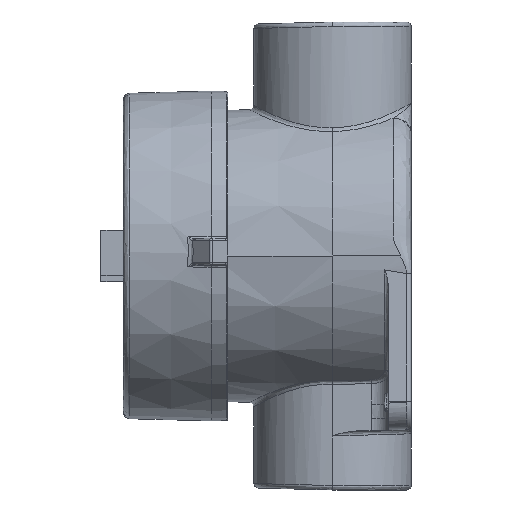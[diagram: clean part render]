
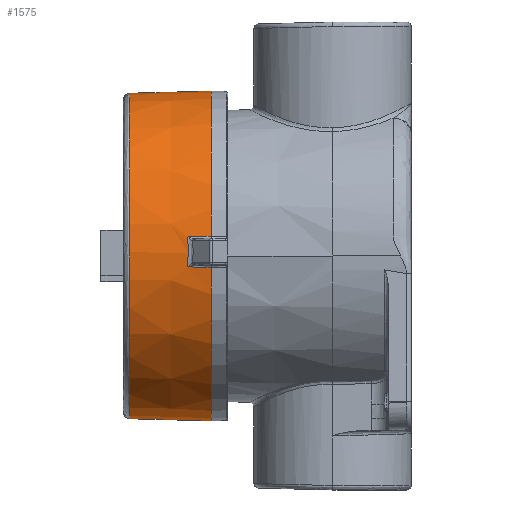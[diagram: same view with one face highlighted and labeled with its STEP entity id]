
A CAD part, left-side view. The second image highlights one B-rep face of the part: STEP entity #1575.
In plain terms, the highlighted conical face has half-angle 1.5 degrees and reference radius 58.214 mm.
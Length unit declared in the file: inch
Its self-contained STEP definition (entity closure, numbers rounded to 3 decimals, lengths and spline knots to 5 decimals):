
#1575 = ADVANCED_FACE ( 'NONE', ( #25082 ), #27564, .T. ) ;
#1743 = ORIENTED_EDGE ( 'NONE', *, *, #20371, .T. ) ;
#2381 = EDGE_CURVE ( 'NONE', #5799, #5889, #9311, .T. ) ;
#2686 = DIRECTION ( 'NONE',  ( 0., 0., 1. ) ) ;
#3038 = DIRECTION ( 'NONE',  ( 0., 0., -1. ) ) ;
#3412 = CARTESIAN_POINT ( 'NONE',  ( -0.20732, -2.27386, 0.57789 ) ) ;
#5259 = CARTESIAN_POINT ( 'NONE',  ( 0., 0., 0.25 ) ) ;
#5275 = CARTESIAN_POINT ( 'NONE',  ( -0.21296, -2.27909, 0.3593 ) ) ;
#5799 = VERTEX_POINT ( 'NONE', #22353 ) ;
#5889 = VERTEX_POINT ( 'NONE', #28000 ) ;
#6087 = EDGE_LOOP ( 'NONE', ( #13599, #7158, #19633, #14988, #7817, #30579, #1743, #32050 ) ) ;
#6796 = DIRECTION ( 'NONE',  ( -1., 0., 0. ) ) ;
#7158 = ORIENTED_EDGE ( 'NONE', *, *, #13939, .T. ) ;
#7164 = DIRECTION ( 'NONE',  ( 1., 0., 0. ) ) ;
#7196 = CARTESIAN_POINT ( 'NONE',  ( 0.21296, -2.27909, 0.3593 ) ) ;
#7817 = ORIENTED_EDGE ( 'NONE', *, *, #13050, .T. ) ;
#7964 = CARTESIAN_POINT ( 'NONE',  ( 0.20732, -2.27386, 0.57789 ) ) ;
#8682 = DIRECTION ( 'NONE',  ( 0., 0., -1. ) ) ;
#9083 = CARTESIAN_POINT ( 'NONE',  ( 0., 0., 0.25 ) ) ;
#9143 = CARTESIAN_POINT ( 'NONE',  ( -2.29188, 0., 0.25 ) ) ;
#9311 = LINE ( 'NONE', #9143, #31986 ) ;
#9850 = AXIS2_PLACEMENT_3D ( 'NONE', #5259, #2686, #7164 ) ;
#9946 = EDGE_CURVE ( 'NONE', #5889, #27493, #31676, .T. ) ;
#10373 = B_SPLINE_CURVE_WITH_KNOTS ( 'NONE', 3,
 ( #18621, #5275, #31789, #31611 ),
 .UNSPECIFIED., .F., .F.,
 ( 4, 4 ),
 ( 0., 1. ),
 .UNSPECIFIED. ) ;
#11220 = CARTESIAN_POINT ( 'NONE',  ( 2.29188, 0., 0.25 ) ) ;
#11495 = EDGE_CURVE ( 'NONE', #22685, #15389, #31116, .T. ) ;
#11592 = CARTESIAN_POINT ( 'NONE',  ( 0., 0., 0.25 ) ) ;
#11661 = DIRECTION ( 'NONE',  ( 0., 0., 1. ) ) ;
#12167 = CARTESIAN_POINT ( 'NONE',  ( 0.21013, -2.27647, 0.4686 ) ) ;
#12297 = AXIS2_PLACEMENT_3D ( 'NONE', #11592, #8682, #6796 ) ;
#12668 = VERTEX_POINT ( 'NONE', #22594 ) ;
#13001 = CARTESIAN_POINT ( 'NONE',  ( 0., 0., 1.37745 ) ) ;
#13050 = EDGE_CURVE ( 'NONE', #27493, #16293, #10373, .T. ) ;
#13084 = CARTESIAN_POINT ( 'NONE',  ( 0.2158, -2.28169, 0.25 ) ) ;
#13599 = ORIENTED_EDGE ( 'NONE', *, *, #17916, .F. ) ;
#13939 = EDGE_CURVE ( 'NONE', #12668, #5799, #32082, .T. ) ;
#14192 = CARTESIAN_POINT ( 'NONE',  ( 0.20732, -2.27386, 0.57789 ) ) ;
#14988 = ORIENTED_EDGE ( 'NONE', *, *, #9946, .T. ) ;
#15389 = VERTEX_POINT ( 'NONE', #32205 ) ;
#16293 = VERTEX_POINT ( 'NONE', #3412 ) ;
#16906 = B_SPLINE_CURVE_WITH_KNOTS ( 'NONE', 3,
 ( #23534, #26585, #31397, #7964 ),
 .UNSPECIFIED., .F., .F.,
 ( 4, 4 ),
 ( 0., 1. ),
 .UNSPECIFIED. ) ;
#17916 = EDGE_CURVE ( 'NONE', #12668, #15389, #22136, .T. ) ;
#18415 = EDGE_CURVE ( 'NONE', #16293, #26497, #16906, .T. ) ;
#18621 = CARTESIAN_POINT ( 'NONE',  ( -0.2158, -2.28169, 0.25 ) ) ;
#19514 = DIRECTION ( 'NONE',  ( 1., 0., 0. ) ) ;
#19633 = ORIENTED_EDGE ( 'NONE', *, *, #2381, .T. ) ;
#20018 = CARTESIAN_POINT ( 'NONE',  ( 0.2158, -2.28169, 0.25 ) ) ;
#20371 = EDGE_CURVE ( 'NONE', #26497, #22685, #20860, .T. ) ;
#20860 = B_SPLINE_CURVE_WITH_KNOTS ( 'NONE', 3,
 ( #22079, #12167, #7196, #20018 ),
 .UNSPECIFIED., .F., .F.,
 ( 4, 4 ),
 ( 0., 1. ),
 .UNSPECIFIED. ) ;
#22079 = CARTESIAN_POINT ( 'NONE',  ( 0.20732, -2.27386, 0.57789 ) ) ;
#22136 = LINE ( 'NONE', #11220, #28067 ) ;
#22353 = CARTESIAN_POINT ( 'NONE',  ( -2.26235, 0., 1.37745 ) ) ;
#22594 = CARTESIAN_POINT ( 'NONE',  ( 2.26235, 0., 1.37745 ) ) ;
#22685 = VERTEX_POINT ( 'NONE', #13084 ) ;
#23534 = CARTESIAN_POINT ( 'NONE',  ( -0.20732, -2.27386, 0.57789 ) ) ;
#23925 = DIRECTION ( 'NONE',  ( 1., 0., 0. ) ) ;
#24879 = DIRECTION ( 'NONE',  ( 0.026, 0., -1. ) ) ;
#25082 = FACE_OUTER_BOUND ( 'NONE', #6087, .T. ) ;
#26497 = VERTEX_POINT ( 'NONE', #14192 ) ;
#26585 = CARTESIAN_POINT ( 'NONE',  ( -0.06952, -2.28678, 0.56443 ) ) ;
#27166 = AXIS2_PLACEMENT_3D ( 'NONE', #13001, #3038, #23925 ) ;
#27493 = VERTEX_POINT ( 'NONE', #33024 ) ;
#27564 = CONICAL_SURFACE ( 'NONE', #12297, 2.29188, 0.026 ) ;
#28000 = CARTESIAN_POINT ( 'NONE',  ( -2.29188, 0., 0.25 ) ) ;
#28067 = VECTOR ( 'NONE', #24879, 39.37008 ) ;
#30021 = DIRECTION ( 'NONE',  ( -0.026, 0., -1. ) ) ;
#30579 = ORIENTED_EDGE ( 'NONE', *, *, #18415, .T. ) ;
#31116 = CIRCLE ( 'NONE', #32223, 2.29188 ) ;
#31397 = CARTESIAN_POINT ( 'NONE',  ( 0.06952, -2.28678, 0.56443 ) ) ;
#31611 = CARTESIAN_POINT ( 'NONE',  ( -0.20732, -2.27386, 0.57789 ) ) ;
#31676 = CIRCLE ( 'NONE', #9850, 2.29188 ) ;
#31789 = CARTESIAN_POINT ( 'NONE',  ( -0.21013, -2.27647, 0.4686 ) ) ;
#31986 = VECTOR ( 'NONE', #30021, 39.37008 ) ;
#32050 = ORIENTED_EDGE ( 'NONE', *, *, #11495, .T. ) ;
#32082 = CIRCLE ( 'NONE', #27166, 2.26235 ) ;
#32205 = CARTESIAN_POINT ( 'NONE',  ( 2.29188, 0., 0.25 ) ) ;
#32223 = AXIS2_PLACEMENT_3D ( 'NONE', #9083, #11661, #19514 ) ;
#33024 = CARTESIAN_POINT ( 'NONE',  ( -0.2158, -2.28169, 0.25 ) ) ;
